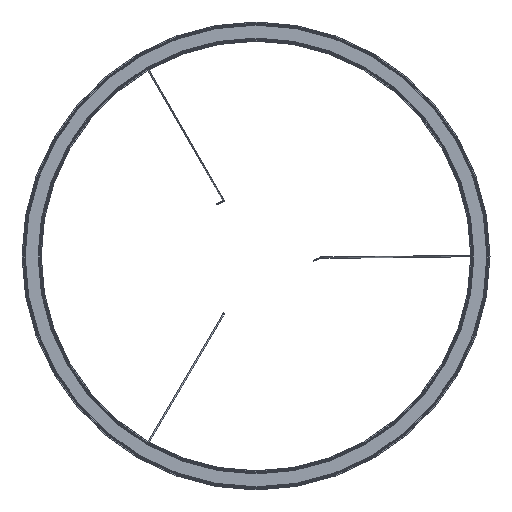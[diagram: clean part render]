
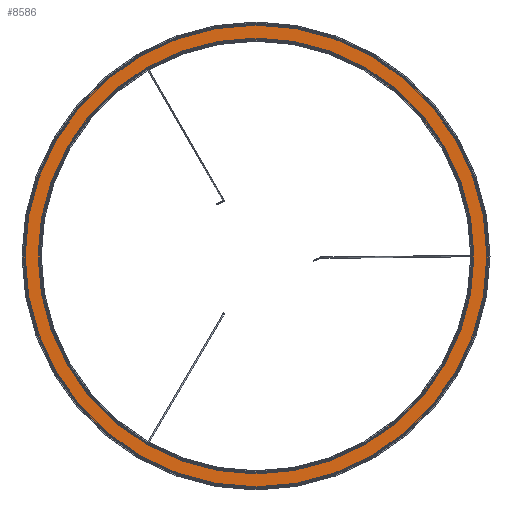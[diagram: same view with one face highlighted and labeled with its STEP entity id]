
A CAD part, top view. The second image highlights one B-rep face of the part: STEP entity #8586.
In plain terms, the highlighted planar face has unit normal (0, 0, 1).
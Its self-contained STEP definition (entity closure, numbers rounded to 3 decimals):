
#885=CIRCLE('',#9218,420.45);
#889=CIRCLE('',#9225,452.55);
#1916=ORIENTED_EDGE('',*,*,#2894,.T.);
#1917=ORIENTED_EDGE('',*,*,#2890,.F.);
#2890=EDGE_CURVE('',#3513,#3513,#885,.T.);
#2894=EDGE_CURVE('',#3517,#3517,#889,.T.);
#3513=VERTEX_POINT('',#13295);
#3517=VERTEX_POINT('',#13306);
#4370=EDGE_LOOP('',(#1916));
#4371=EDGE_LOOP('',(#1917));
#4997=FACE_BOUND('',#4370,.T.);
#4998=FACE_BOUND('',#4371,.T.);
#5259=PLANE('',#9224);
#8586=ADVANCED_FACE('',(#4997,#4998),#5259,.T.);
#9218=AXIS2_PLACEMENT_3D('',#13294,#10532,#10533);
#9224=AXIS2_PLACEMENT_3D('',#13304,#10544,#10545);
#9225=AXIS2_PLACEMENT_3D('',#13305,#10546,#10547);
#10532=DIRECTION('',(0.,0.,1.));
#10533=DIRECTION('',(-1.,0.,0.));
#10544=DIRECTION('',(0.,0.,1.));
#10545=DIRECTION('',(-1.,0.,0.));
#10546=DIRECTION('',(0.,0.,1.));
#10547=DIRECTION('',(-1.,0.,0.));
#13294=CARTESIAN_POINT('',(0.,0.,36.));
#13295=CARTESIAN_POINT('',(-420.45,0.,36.));
#13304=CARTESIAN_POINT('',(-420.45,0.,36.));
#13305=CARTESIAN_POINT('',(0.,0.,36.));
#13306=CARTESIAN_POINT('',(-452.55,0.,36.));
